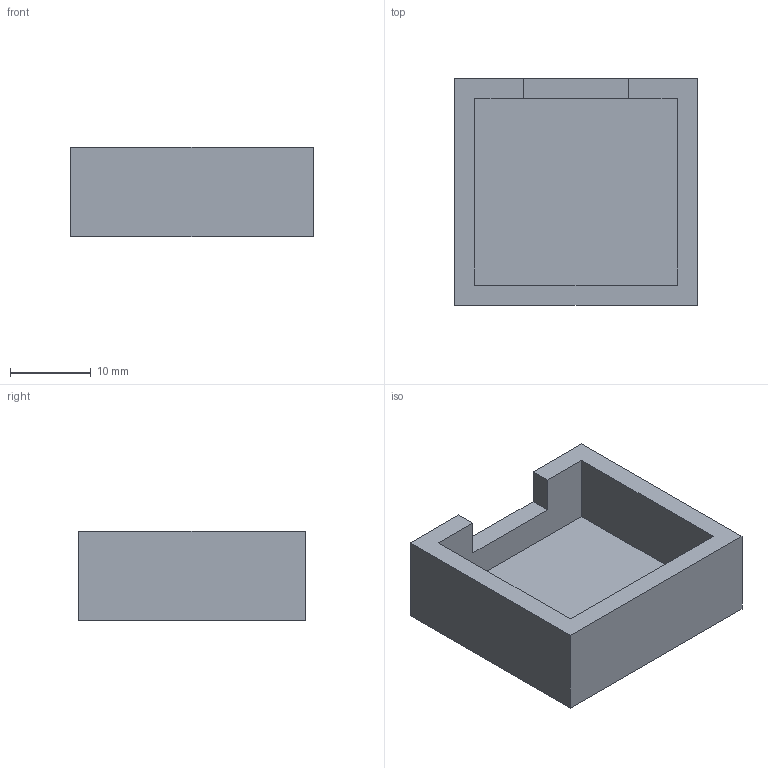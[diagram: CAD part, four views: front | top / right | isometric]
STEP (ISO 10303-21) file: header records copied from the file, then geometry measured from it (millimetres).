
FILE_DESCRIPTION(('Open CASCADE Model'),'2;1');
FILE_NAME('Open CASCADE Shape Model','2026-09-20T05:39:32',('Author'),( 'Open CASCADE'),'Open CASCADE STEP processor 7.9','Open CASCADE 7.9' ,'Unknown');
FILE_SCHEMA(('AUTOMOTIVE_DESIGN { 1 0 10303 214 1 1 1 1 }'));
Length unit declared in the file: millimetre
Products named in the file (1): Open CASCADE STEP translator 7.9 10
Bounding box: 30 x 28 x 11 mm (x, y, z)
Volume: 4206.2 mm3; surface area: 3677.5 mm2
Topology: 1 solids, 1 shells, 14 faces, 36 edges, 24 vertices
Faces by surface type: plane 14
Entity records: 872 total; most frequent: CARTESIAN_POINT 173, DIRECTION 112, LINE 82, VECTOR 82, ORIENTED_EDGE 72, PCURVE 72, DEFINITIONAL_REPRESENTATION 72, EDGE_CURVE 36
